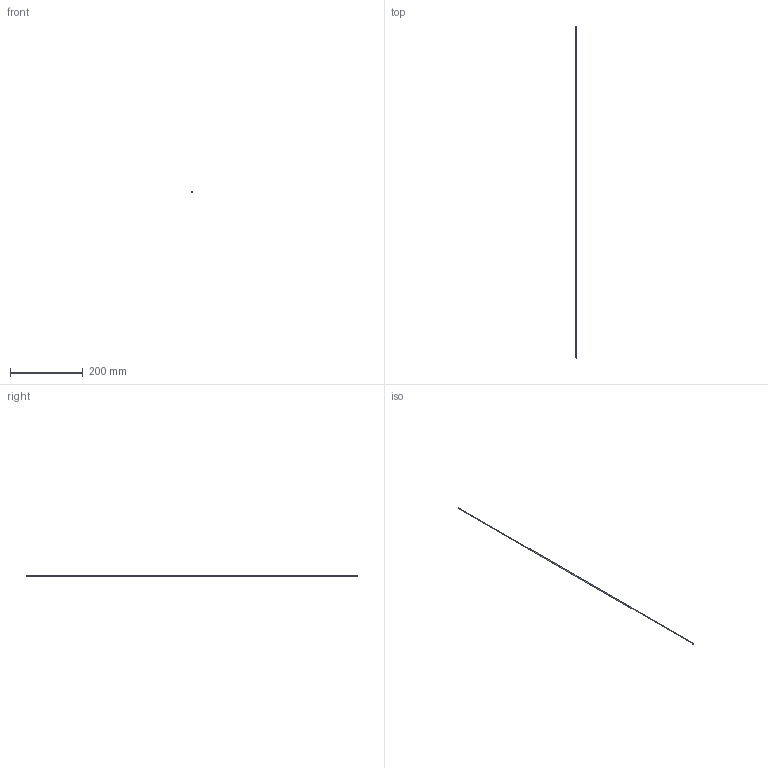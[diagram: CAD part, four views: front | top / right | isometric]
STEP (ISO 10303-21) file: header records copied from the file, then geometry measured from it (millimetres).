
FILE_DESCRIPTION(/* description */ (''),/* implementation_level */ '2;1');
FILE_NAME(/* name */ 'C:/Users/drich/Desktop/HF093T-36 v1.step',/* time_stamp */ '2019-12-30T13:33:48-06:00',/* author */ (''),/* organization */ (''),/* preprocessor_version */ 'ST-DEVELOPER v18',/* originating_system */ 'Autodesk Translation Framework v8.12.0.6',/* authorisation */ '');
FILE_SCHEMA (('AUTOMOTIVE_DESIGN { 1 0 10303 214 3 1 1 }'));
Length unit declared in the file: inch
Products named in the file (1): HF093T-36
Bounding box: 3.23 x 914.4 x 3.23 mm (x, y, z)
Volume: 1089.1 mm3; surface area: 12129.7 mm2
Topology: 1 solids, 1 shells, 11 faces, 27 edges, 20 vertices
Faces by surface type: cylinder 4, plane 4, torus 2, cone 1
Full cylindrical faces by diameter (mm): 1.93 x1, 2.286 x1, 3.096 x1, 3.226 x1
Entity records: 390 total; most frequent: DIRECTION 73, CARTESIAN_POINT 59, ORIENTED_EDGE 54, AXIS2_PLACEMENT_3D 34, EDGE_CURVE 27, CIRCLE 22, VERTEX_POINT 20, EDGE_LOOP 15
